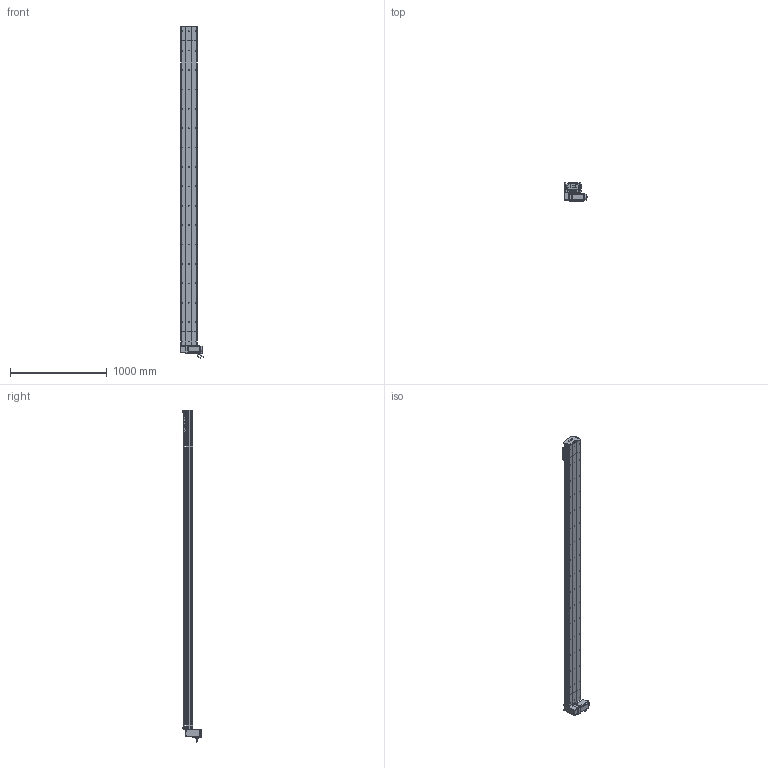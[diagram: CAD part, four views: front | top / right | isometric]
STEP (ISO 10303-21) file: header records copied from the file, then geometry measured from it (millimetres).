
FILE_DESCRIPTION (( 'STEP AP214' ), '1' );
FILE_NAME ('D17 TBH RU S3000.STEP', '2010-06-30T09:03:53', ( 'Christophe Gaillard' ), ( 'SGA' ), 'SwSTEP 2.0', 'SolidWorks 2010', '' );
FILE_SCHEMA (( 'AUTOMOTIVE_DESIGN' ));
Length unit declared in the file: millimetre
Products named in the file (40): Arbre+rail head D17B; plaque de  bout head D17B RU_Default; couvercle D17B head_Default; cache D17_Default; Tail D17B_Default; corpl tail D17B_Default; Rail D17B; tete d''axe poulie D17B; plaque de  bout tail D17B_Default; poulie tail_Default; Couroie tail D17B_Default; corpl head D17 _Default; vis M5 L8 90°_Default; vis M5 L25_Default; chariot D17S_Default; corp D17B 3000_Default; Chariot D17; cache arbre D17_Default; Conecteur2_Default; vis M5 L70_Default; Conecteur_Default; vis M5 L16_Default; codeur 90BLDC125-640; Vis M5 L16-2_Default; course 3000 D17B_Default; avant 90BLDC125A-640; corps 90BLDC125A-640; Plaque racord D17_Default; vis M5 L12_Default; D17 TBH RU S3000; guide D17; couroie head D17_Default; Moteur motionking 90BLDC125A-640; poulie head_Default; vis M5 L5_Default; couvercle D17B_Default; Couroie+ rail D17 Course 3000 ; couvercle D17B course L3000_Default; Head RU D17B_Default; Renvoi RU_Default
Assembly tree (70 placements, depth 4):
  D17 TBH RU S3000
    Head RU D17B_Default
      vis M5 L12_Default  x8
      Vis M5 L16-2_Default  x4
      plaque de  bout head D17B RU_Default
      cache D17_Default  x2
      Arbre+rail head D17B
      Moteur motionking 90BLDC125A-640
        Conecteur_Default
        avant 90BLDC125A-640
        Conecteur2_Default
        corps 90BLDC125A-640
        codeur 90BLDC125-640
      poulie head_Default
      vis M5 L16_Default  x2
      couvercle D17B head_Default
      corpl head D17 _Default
      vis M5 L70_Default  x4
      Renvoi RU_Default
      vis M5 L5_Default  x4
      couroie head D17_Default
      vis M5 L25_Default  x2
      Plaque racord D17_Default
      cache arbre D17_Default
    course 3000 D17B_Default
      corp D17B 3000_Default
      couvercle D17B course L3000_Default
      Couroie+ rail D17 Course 3000 
    chariot D17S_Default
      guide D17  x2
      vis M5 L12_Default  x4
      Chariot D17
    Tail D17B_Default
      vis M5 L8 90°_Default  x2
      tete d''axe poulie D17B
      Couroie tail D17B_Default
      plaque de  bout tail D17B_Default
      vis M5 L12_Default  x4
      corpl tail D17B_Default
      Rail D17B
      vis M5 L25_Default  x2
      poulie tail_Default
      couvercle D17B_Default
Bounding box: 245.2 x 188.65 x 3423.95 mm (x, y, z)
Volume: 19494475.6 mm3; surface area: 5681910.5 mm2
Topology: 94 solids, 94 shells, 2773 faces, 7085 edges, 4558 vertices
Faces by surface type: plane 1607, cylinder 853, bspline 136, cone 88, torus 85, sphere 4
Entity records: 87792 total; most frequent: CARTESIAN_POINT 25729, ORIENTED_EDGE 10942, DIRECTION 10364, EDGE_CURVE 5471, VERTEX_POINT 3582, VECTOR 3550, LINE 3550, AXIS2_PLACEMENT_3D 3407
